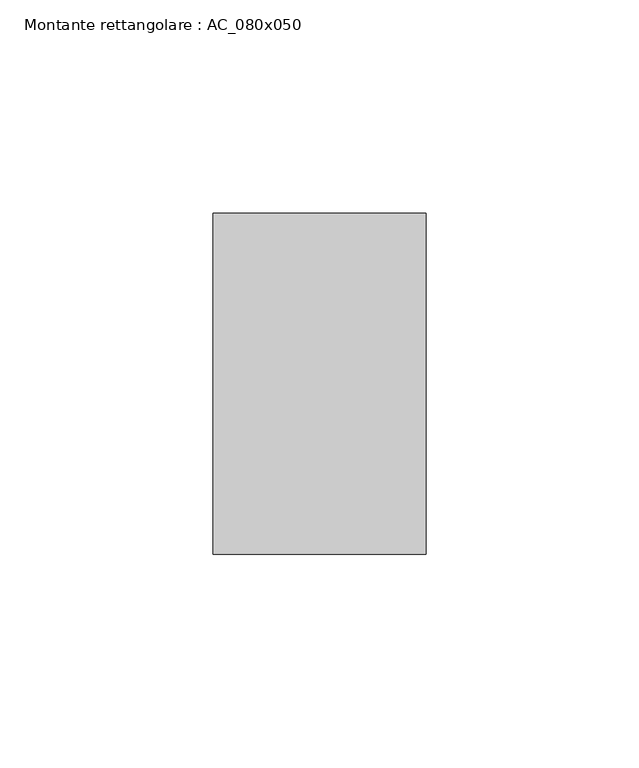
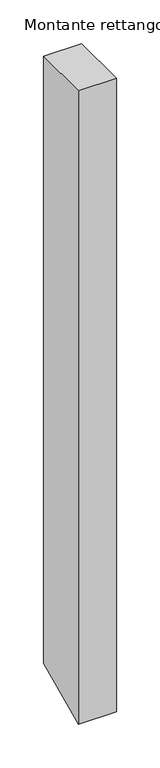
"""IFC4 building model written with IfcOpenShell, lengths in millimetres: member geometry, Montante rettangolare : AC_080x050."""

from ifc_helpers import new_model, si_unit, frame, origin, place, context, project, spatial, polyline, outline, extrude, source, transform, mapped, element, save


def montante_rettangolare_ac_080x050_439e9399(model_context):
    return source(origin(), model_context, "Body", "SweptSolid", [
        extrude(outline(polyline([(-40.0, 0.0), (40.0, 0.0), (40.0, -847.7211567), (-40.0, -884.2788433), (-40.0, 0.0)])), frame((-50.0, 0.0, 0.0), z_axis=(1.0, 0.0, 0.0), x_axis=(0.0, 1.0, 0.0)), (0.0, 0.0, 1.0), 50.0),
    ])


if __name__ == "__main__":
    model = new_model("IFC4")
    model_context = context("Model", 3, world=origin())
    ifc_project = project(units=[si_unit("LENGTHUNIT", "METRE", prefix="MILLI")], contexts=[model_context])
    site = spatial("IfcSite", under=ifc_project)
    building = spatial("IfcBuilding", under=site)
    placement = place(None, origin())
    montante_rettangolare_ac_080x050_shape = montante_rettangolare_ac_080x050_439e9399(model_context)
    element("IfcMember", 1, ObjectType="Montante rettangolare : AC_080x050", at=placement, inside=building, context=model_context, shape_type="MappedRepresentation", body=[
        mapped(montante_rettangolare_ac_080x050_shape, transform((0.0, 0.0, 0.0), x_axis=(1.0, 0.0, 0.0), y_axis=(0.0, 1.0, 0.0), z_axis=(0.0, 0.0, 1.0))),
    ])
    save(model, "model.ifc")
